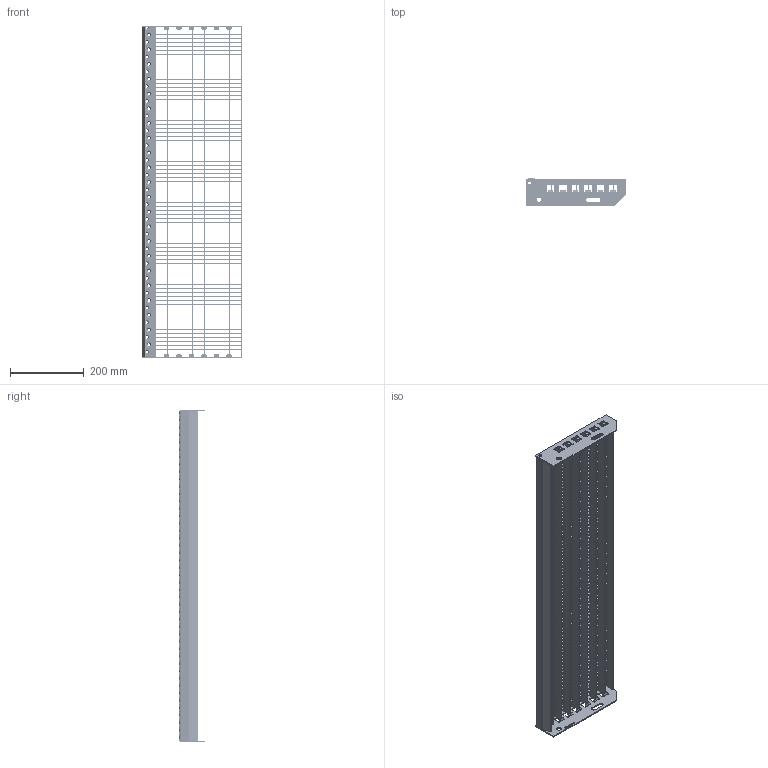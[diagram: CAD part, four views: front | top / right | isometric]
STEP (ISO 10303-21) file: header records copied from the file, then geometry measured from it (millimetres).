
FILE_DESCRIPTION(/* description */ ('','CAx-IF Rec.Pracs.---Representation and Presentation of Product Manufacturing Information (PMI)---3.8---2014-02-18'),/* implementation_level */ '2;1');
FILE_NAME(/* name */ 'C:\Users\phaverkotte\Desktop\Lager STEP\P-Stufen\PX42 230-33 11-2\PX42 230-33 11-2 900mm x 270mm.stp',/* time_stamp */ '2018-03-24T10:59:42+01:00',/* author */ ('phaverkotte'),/* organization */ (''),/* preprocessor_version */ 'ST-DEVELOPER v16.13',/* originating_system */ 'Autodesk Inventor 2018',/* authorisation */ '');
FILE_SCHEMA (('AP242_MANAGED_MODEL_BASED_3D_ENGINEERING_MIM_LF { 1 0 10303 442 1 1 4 }'));
Length unit declared in the file: millimetre
Products named in the file (8): Schodišťový stupeň přím
ý lisovaný; Seitenplatte ausgeklinkt links; Seitenplatte 240 ausgeklinkt extern rechts; Schod nášlap; P Rošt schodu; Querstab; P Nosný pás; Hinteres Flach
Assembly tree (92 placements, depth 3):
  Schodišťový stupeň přím
ý lisovaný
    Seitenplatte ausgeklinkt links
    Seitenplatte 240 ausgeklinkt extern rechts
    Schod nášlap
    P Rošt schodu
      Querstab  x80
      P Nosný pás  x7
      Hinteres Flach
Bounding box: 270.31 x 72.75 x 900 mm (x, y, z)
Volume: 957390.8 mm3; surface area: 1076056.7 mm2
Topology: 91 solids, 91 shells, 16694 faces, 49370 edges, 32875 vertices
Faces by surface type: plane 16358, cone 135, cylinder 132, torus 45, bspline 24
Full cylindrical faces by diameter (mm): 8 x2, 13 x2
Entity records: 40493 total; most frequent: CARTESIAN_POINT 10511, ORIENTED_EDGE 5958, DIRECTION 5868, EDGE_CURVE 2979, LINE 2434, VECTOR 2434, VERTEX_POINT 2038, AXIS2_PLACEMENT_3D 1717
